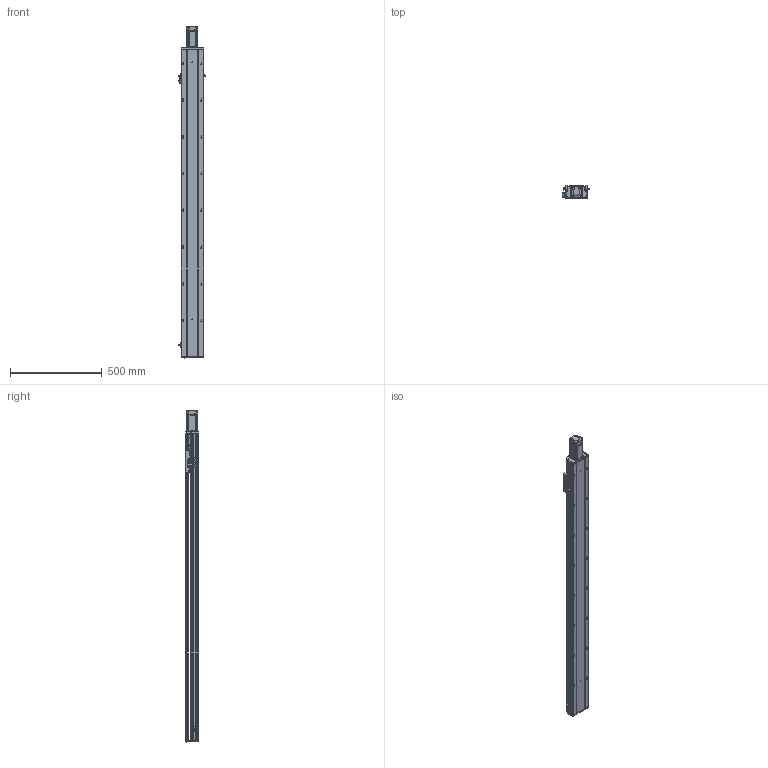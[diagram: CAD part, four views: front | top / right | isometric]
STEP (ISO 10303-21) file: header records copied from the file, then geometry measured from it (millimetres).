
FILE_DESCRIPTION (( 'STEP AP203' ), '1' );
FILE_NAME ('RYK120-L1610-S1400-M40-C3-MK.STEP', '2026-03-09T07:13:27', ( '' ), ( '' ), 'SwSTEP 2.0', 'SolidWorks 2016', '' );
FILE_SCHEMA (( 'CONFIG_CONTROL_DESIGN' ));
Length unit declared in the file: millimetre
Products named in the file (17): RY120QGB-1.8; 滅袉蝶18-10; 侂狟400W侜督萇儂; 2.10.1.C521-V1.0RY120臏賑輸16蹟譫-啞-JZZY-NRL-L1899; RY120外置感应片(140共用）; RY120綴裔啣; RYK120-L1610-S1400-M40-C3-MK; 15; 44-49-12-14; 滅袉蝶18-24; RYK170-薊粣ん芵隴裔啣; CB╱T 3762-1996[锥形润滑油嘴1-ZM10×1]_1-ZM10×1; RYK120-300-MK-菁釱-啞_1400; RY120电机端支撑座-压铸加工-M5; RY120-16螺母油路-集中注油组合; 覜茼ん672; RYK120-300-MK-奻裔啣-啞_1400
Assembly tree (21 placements, depth 3):
  RYK120-L1610-S1400-M40-C3-MK
    RYK120-300-MK-菁釱-啞_1400
    RYK120-300-MK-奻裔啣-啞_1400
    RY120綴裔啣
    滅袉蝶18-24  x2
    滅袉蝶18-10  x2
    覜茼ん672  x3
    RY120外置感应片(140共用）
    RY120QGB-1.8
    RY120-16螺母油路-集中注油组合
      2.10.1.C521-V1.0RY120臏賑輸16蹟譫-啞-JZZY-NRL-L1899
      CB╱T 3762-1996[锥形润滑油嘴1-ZM10×1]_1-ZM10×1  x2
    RY120电机端支撑座-压铸加工-M5
    RYK170-薊粣ん芵隴裔啣
    44-49-12-14
    侂狟400W侜督萇儂
      15
Bounding box: 145.7 x 73 x 1808.5 mm (x, y, z)
Volume: 4578605.9 mm3; surface area: 1660144.9 mm2
Topology: 23 solids, 23 shells, 2724 faces, 7554 edges, 4803 vertices
Faces by surface type: plane 1211, cylinder 1077, cone 309, bspline 127
Entity records: 90584 total; most frequent: CARTESIAN_POINT 26084, ORIENTED_EDGE 13528, DIRECTION 12467, EDGE_CURVE 6764, VERTEX_POINT 4415, AXIS2_PLACEMENT_3D 4310, LINE 3847, VECTOR 3847
